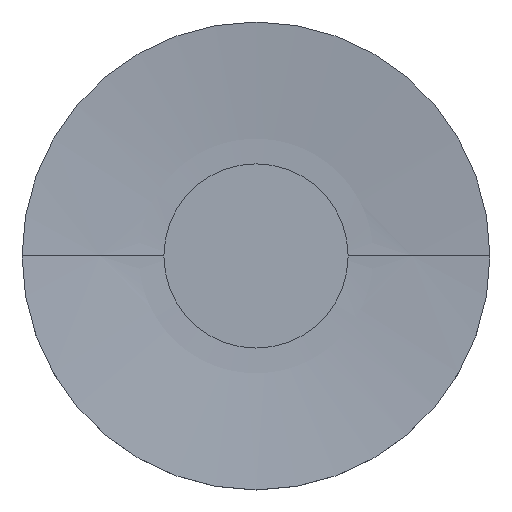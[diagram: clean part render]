
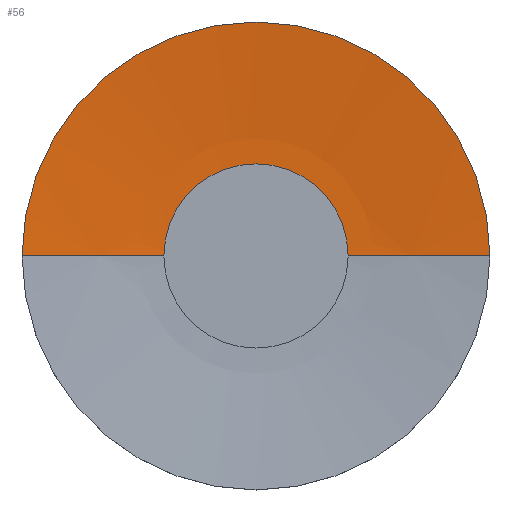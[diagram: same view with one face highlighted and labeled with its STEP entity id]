
A CAD part, top view. The second image highlights one B-rep face of the part: STEP entity #56.
In plain terms, the highlighted spherical face has radius 209.996 mm.
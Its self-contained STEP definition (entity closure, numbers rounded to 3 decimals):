
#56=ADVANCED_FACE('',(#69),#70,.F.);
#69=FACE_OUTER_BOUND('',#89,.T.);
#70=SPHERICAL_SURFACE('',#90,209.996);
#89=EDGE_LOOP('',(#118,#119,#120));
#90=AXIS2_PLACEMENT_3D('',#121,#122,#123);
#118=ORIENTED_EDGE('',*,*,#173,.F.);
#119=ORIENTED_EDGE('',*,*,#170,.F.);
#120=ORIENTED_EDGE('',*,*,#174,.F.);
#121=CARTESIAN_POINT('',(0.0,0.0,215.996));
#122=DIRECTION('',(0.0,0.0,1.0));
#123=DIRECTION('',(1.0,0.0,0.0));
#170=EDGE_CURVE('',#188,#184,#190,.T.);
#173=EDGE_CURVE('',#184,#194,#195,.T.);
#174=EDGE_CURVE('',#194,#188,#196,.T.);
#184=VERTEX_POINT('',#210);
#188=VERTEX_POINT('',#215);
#190=CIRCLE('',#218,25.4);
#194=VERTEX_POINT('',#222);
#195=CIRCLE('',#223,209.996);
#196=CIRCLE('',#224,209.996);
#210=CARTESIAN_POINT('',(25.4,0.,7.542));
#215=CARTESIAN_POINT('',(-25.4,0.,7.542));
#218=AXIS2_PLACEMENT_3D('',#244,#245,#246);
#222=CARTESIAN_POINT('',(0.0,0.0,6.));
#223=AXIS2_PLACEMENT_3D('',#253,#254,#255);
#224=AXIS2_PLACEMENT_3D('',#256,#257,#258);
#244=CARTESIAN_POINT('',(0.0,0.0,7.542));
#245=DIRECTION('',(0.0,0.0,-1.0));
#246=DIRECTION('',(1.0,0.0,0.0));
#253=CARTESIAN_POINT('',(0.0,0.0,215.996));
#254=DIRECTION('',(0.,1.0,0.0));
#255=DIRECTION('',(-0.0,0.0,1.0));
#256=CARTESIAN_POINT('',(0.0,0.0,215.996));
#257=DIRECTION('',(0.,1.0,0.0));
#258=DIRECTION('',(-0.0,0.0,1.0));
